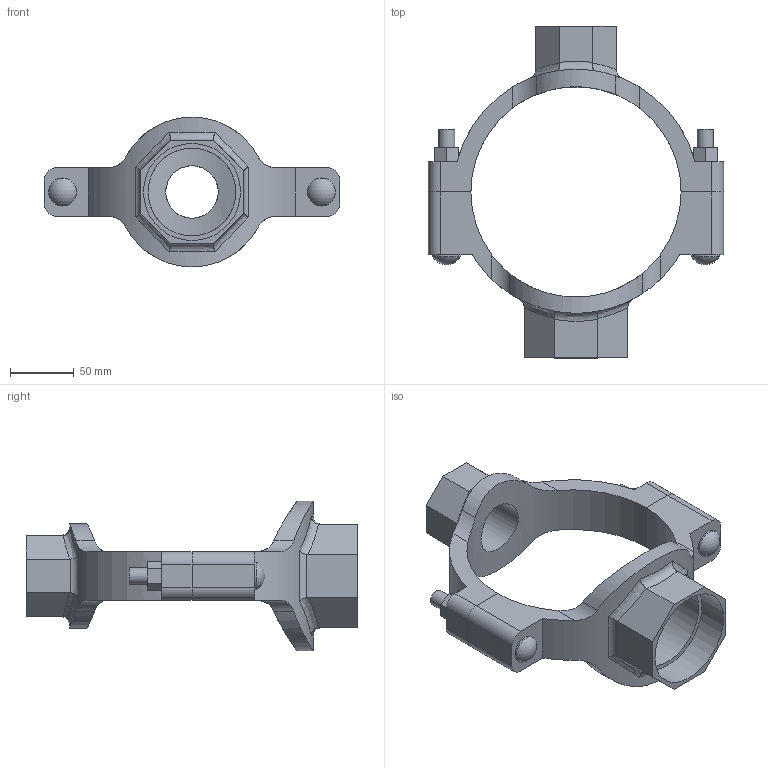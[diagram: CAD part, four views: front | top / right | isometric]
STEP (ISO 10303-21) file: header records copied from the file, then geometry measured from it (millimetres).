
FILE_DESCRIPTION(/* description */ ('VIC MECH-T BRANCH OUTLET CROSS STYLE 920N (THD)','CAx-IF Rec.Pracs.---Representation and Presentation of Product Manufacturing Information (PMI)---4.0---2014-10-13'),/* implementation_level */ '2;1');
FILE_NAME(/* name */ 'C:\Users\Vjadhav\AppData\Roaming\Autodesk\ApplicationPlugins\Back Up\Victaulic_IPS_Mechanical-Cross Outlet_Style 920N (FPT)\Victaulic_IPS_Mechanical-Cross Outlet_06.0 (165.1)x01.5x02.5 (76.1) (150x40x65).stp',/* time_stamp */ '2020-08-06T19:00:01+06:00',/* author */ ('Vjadhav'),/* organization */ ('Victaulic'),/* preprocessor_version */ 'ST-DEVELOPER v17.2',/* originating_system */ 'Autodesk Inventor 2019',/* authorisation */ '');
FILE_SCHEMA (('AP242_MANAGED_MODEL_BASED_3D_ENGINEERING_MIM_LF { 1 0 10303 442 1 1 4 }'));
Length unit declared in the file: inch
Products named in the file (3): 920NT-06.0 (165.1)x01.5x02.5 (76.1); 920NT-06.0 (165.1)x01.5x02.5 (76.1)_1; 920T-06.0 (165.1)x02.5 (76.1)
Assembly tree (2 placements, depth 2):
  920NT-06.0 (165.1)x01.5x02.5 (76.1)
    920NT-06.0 (165.1)x01.5x02.5 (76.1)_1
    920T-06.0 (165.1)x02.5 (76.1)
Bounding box: 231.9 x 260.6 x 117.47 mm (x, y, z)
Volume: 566088.1 mm3; surface area: 135617.8 mm2
Topology: 2 solids, 2 shells, 130 faces, 344 edges, 232 vertices
Faces by surface type: plane 68, cylinder 48, bspline 8, torus 4, sphere 2
Full cylindrical faces by diameter (mm): 12.7 x4, 21.982 x2, 41.275 x1, 48.26 x1, 68.986 x1, 76.2 x1
Entity records: 5124 total; most frequent: CARTESIAN_POINT 1665, ORIENTED_EDGE 688, DIRECTION 638, EDGE_CURVE 344, VERTEX_POINT 232, AXIS2_PLACEMENT_3D 227, LINE 184, VECTOR 184
